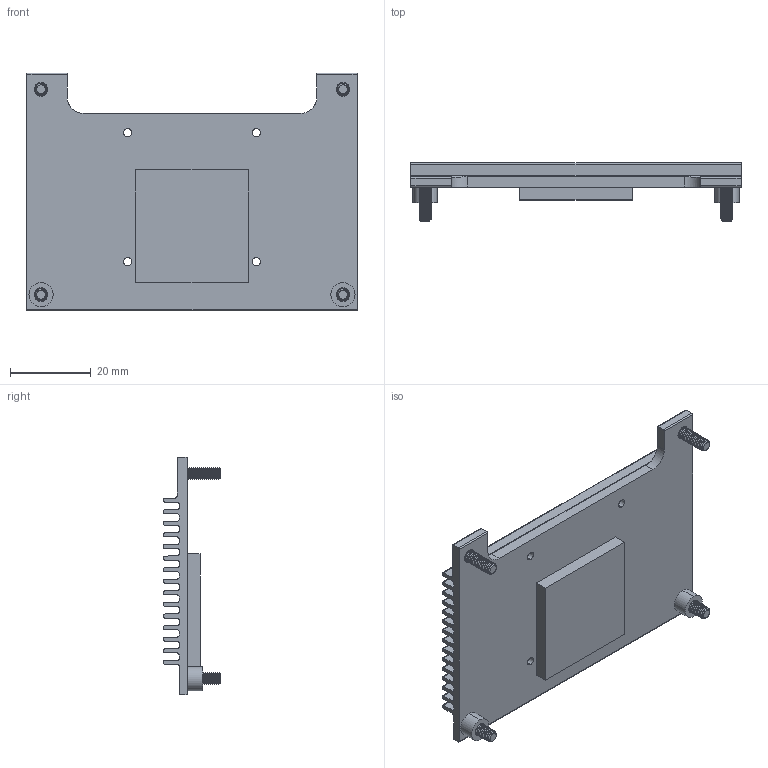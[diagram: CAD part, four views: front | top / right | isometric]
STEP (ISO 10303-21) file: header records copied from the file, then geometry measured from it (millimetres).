
FILE_DESCRIPTION (( 'STEP AP214' ), '1' );
FILE_NAME ('TDX014_A.STEP', '2024-10-15T08:10:20', ( '' ), ( '' ), 'SwSTEP 2.0', 'SolidWorks 2022', '' );
FILE_SCHEMA (( 'AUTOMOTIVE_DESIGN' ));
Length unit declared in the file: millimetre
Products named in the file (4): TDX014_A; 92010A120_92010A120; TM041; TDX015
Assembly tree (6 placements, depth 2):
  TDX014_A
    TDX015
    TM041
    92010A120_92010A120  x4
Bounding box: 82 x 14.35 x 59 mm (x, y, z)
Volume: 16105.2 mm3; surface area: 20579.5 mm2
Topology: 6 solids, 6 shells, 545 faces, 1571 edges, 1042 vertices
Faces by surface type: cylinder 308, plane 201, cone 24, bspline 12
Entity records: 13984 total; most frequent: CARTESIAN_POINT 4819, ORIENTED_EDGE 1990, DIRECTION 1805, EDGE_CURVE 995, VERTEX_POINT 658, AXIS2_PLACEMENT_3D 634, VECTOR 537, LINE 537
